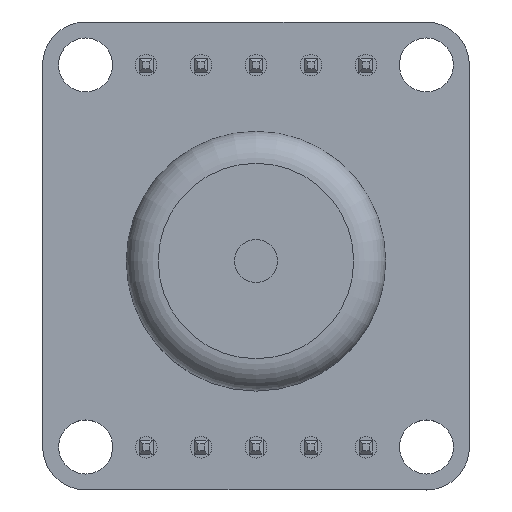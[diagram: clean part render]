
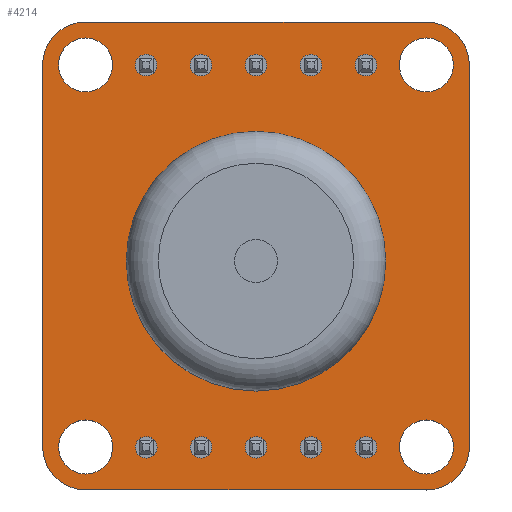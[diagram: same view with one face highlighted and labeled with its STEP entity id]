
A CAD part, top view. The second image highlights one B-rep face of the part: STEP entity #4214.
In plain terms, the highlighted planar face has unit normal (0, 0, 1).
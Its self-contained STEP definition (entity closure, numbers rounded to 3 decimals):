
#3889 = VERTEX_POINT('',#3890);
#3890 = CARTESIAN_POINT('',(153.952,-56.673,1.6));
#3896 = EDGE_CURVE('',#3889,#3897,#3899,.T.);
#3897 = VERTEX_POINT('',#3898);
#3898 = CARTESIAN_POINT('',(155.938,-58.659,1.6));
#3899 = CIRCLE('',#3900,1.986);
#3900 = AXIS2_PLACEMENT_3D('',#3901,#3902,#3903);
#3901 = CARTESIAN_POINT('',(153.952,-58.659,1.6));
#3902 = DIRECTION('',(0.,0.,-1.));
#3903 = DIRECTION('',(0.,1.,0.));
#3931 = VERTEX_POINT('',#3932);
#3932 = CARTESIAN_POINT('',(138.193,-56.673,1.6));
#3938 = EDGE_CURVE('',#3931,#3889,#3939,.T.);
#3939 = LINE('',#3940,#3941);
#3940 = CARTESIAN_POINT('',(138.193,-56.673,1.6));
#3941 = VECTOR('',#3942,1.);
#3942 = DIRECTION('',(1.,0.,0.));
#3960 = EDGE_CURVE('',#3897,#3961,#3963,.T.);
#3961 = VERTEX_POINT('',#3962);
#3962 = CARTESIAN_POINT('',(155.944,-76.324,1.6));
#3963 = LINE('',#3964,#3965);
#3964 = CARTESIAN_POINT('',(155.938,-58.659,1.6));
#3965 = VECTOR('',#3966,1.);
#3966 = DIRECTION('',(0.,-1.,0.));
#4214 = ADVANCED_FACE('',(#4215,#4261,#4272,#4283,#4294,#4305,#4316,
    #4327,#4338,#4349,#4360,#4371,#4382,#4393,#4404,#4415,#4426),#4437,
  .T.);
#4215 = FACE_BOUND('',#4216,.T.);
#4216 = EDGE_LOOP('',(#4217,#4218,#4219,#4228,#4236,#4245,#4253,#4260));
#4217 = ORIENTED_EDGE('',*,*,#3896,.F.);
#4218 = ORIENTED_EDGE('',*,*,#3938,.F.);
#4219 = ORIENTED_EDGE('',*,*,#4220,.F.);
#4220 = EDGE_CURVE('',#4221,#3931,#4223,.T.);
#4221 = VERTEX_POINT('',#4222);
#4222 = CARTESIAN_POINT('',(136.207,-58.659,1.6));
#4223 = CIRCLE('',#4224,1.986);
#4224 = AXIS2_PLACEMENT_3D('',#4225,#4226,#4227);
#4225 = CARTESIAN_POINT('',(138.193,-58.659,1.6));
#4226 = DIRECTION('',(0.,0.,-1.));
#4227 = DIRECTION('',(-1.,0.,-0.));
#4228 = ORIENTED_EDGE('',*,*,#4229,.F.);
#4229 = EDGE_CURVE('',#4230,#4221,#4232,.T.);
#4230 = VERTEX_POINT('',#4231);
#4231 = CARTESIAN_POINT('',(136.213,-76.324,1.6));
#4232 = LINE('',#4233,#4234);
#4233 = CARTESIAN_POINT('',(136.213,-76.324,1.6));
#4234 = VECTOR('',#4235,1.);
#4235 = DIRECTION('',(0.,1.,0.));
#4236 = ORIENTED_EDGE('',*,*,#4237,.F.);
#4237 = EDGE_CURVE('',#4238,#4230,#4240,.T.);
#4238 = VERTEX_POINT('',#4239);
#4239 = CARTESIAN_POINT('',(138.199,-78.31,1.6));
#4240 = CIRCLE('',#4241,1.986);
#4241 = AXIS2_PLACEMENT_3D('',#4242,#4243,#4244);
#4242 = CARTESIAN_POINT('',(138.199,-76.324,1.6));
#4243 = DIRECTION('',(0.,0.,-1.));
#4244 = DIRECTION('',(0.,-1.,-0.));
#4245 = ORIENTED_EDGE('',*,*,#4246,.F.);
#4246 = EDGE_CURVE('',#4247,#4238,#4249,.T.);
#4247 = VERTEX_POINT('',#4248);
#4248 = CARTESIAN_POINT('',(153.958,-78.31,1.6));
#4249 = LINE('',#4250,#4251);
#4250 = CARTESIAN_POINT('',(153.958,-78.31,1.6));
#4251 = VECTOR('',#4252,1.);
#4252 = DIRECTION('',(-1.,0.,0.));
#4253 = ORIENTED_EDGE('',*,*,#4254,.F.);
#4254 = EDGE_CURVE('',#3961,#4247,#4255,.T.);
#4255 = CIRCLE('',#4256,1.986);
#4256 = AXIS2_PLACEMENT_3D('',#4257,#4258,#4259);
#4257 = CARTESIAN_POINT('',(153.958,-76.324,1.6));
#4258 = DIRECTION('',(0.,0.,-1.));
#4259 = DIRECTION('',(1.,0.,0.));
#4260 = ORIENTED_EDGE('',*,*,#3960,.F.);
#4261 = FACE_BOUND('',#4262,.T.);
#4262 = EDGE_LOOP('',(#4263));
#4263 = ORIENTED_EDGE('',*,*,#4264,.T.);
#4264 = EDGE_CURVE('',#4265,#4265,#4267,.T.);
#4265 = VERTEX_POINT('',#4266);
#4266 = CARTESIAN_POINT('',(138.199,-77.574,1.6));
#4267 = CIRCLE('',#4268,1.25);
#4268 = AXIS2_PLACEMENT_3D('',#4269,#4270,#4271);
#4269 = CARTESIAN_POINT('',(138.199,-76.324,1.6));
#4270 = DIRECTION('',(-0.,0.,-1.));
#4271 = DIRECTION('',(-0.,-1.,0.));
#4272 = FACE_BOUND('',#4273,.T.);
#4273 = EDGE_LOOP('',(#4274));
#4274 = ORIENTED_EDGE('',*,*,#4275,.T.);
#4275 = EDGE_CURVE('',#4276,#4276,#4278,.T.);
#4276 = VERTEX_POINT('',#4277);
#4277 = CARTESIAN_POINT('',(141.,-76.839,1.6));
#4278 = CIRCLE('',#4279,0.5);
#4279 = AXIS2_PLACEMENT_3D('',#4280,#4281,#4282);
#4280 = CARTESIAN_POINT('',(141.,-76.339,1.6));
#4281 = DIRECTION('',(-0.,0.,-1.));
#4282 = DIRECTION('',(-0.,-1.,0.));
#4283 = FACE_BOUND('',#4284,.T.);
#4284 = EDGE_LOOP('',(#4285));
#4285 = ORIENTED_EDGE('',*,*,#4286,.T.);
#4286 = EDGE_CURVE('',#4287,#4287,#4289,.T.);
#4287 = VERTEX_POINT('',#4288);
#4288 = CARTESIAN_POINT('',(143.54,-76.839,1.6));
#4289 = CIRCLE('',#4290,0.5);
#4290 = AXIS2_PLACEMENT_3D('',#4291,#4292,#4293);
#4291 = CARTESIAN_POINT('',(143.54,-76.339,1.6));
#4292 = DIRECTION('',(-0.,0.,-1.));
#4293 = DIRECTION('',(-0.,-1.,0.));
#4294 = FACE_BOUND('',#4295,.T.);
#4295 = EDGE_LOOP('',(#4296));
#4296 = ORIENTED_EDGE('',*,*,#4297,.T.);
#4297 = EDGE_CURVE('',#4298,#4298,#4300,.T.);
#4298 = VERTEX_POINT('',#4299);
#4299 = CARTESIAN_POINT('',(146.076,-71.542,1.6));
#4300 = CIRCLE('',#4301,0.5);
#4301 = AXIS2_PLACEMENT_3D('',#4302,#4303,#4304);
#4302 = CARTESIAN_POINT('',(146.076,-71.042,1.6));
#4303 = DIRECTION('',(-0.,0.,-1.));
#4304 = DIRECTION('',(-0.,-1.,0.));
#4305 = FACE_BOUND('',#4306,.T.);
#4306 = EDGE_LOOP('',(#4307));
#4307 = ORIENTED_EDGE('',*,*,#4308,.T.);
#4308 = EDGE_CURVE('',#4309,#4309,#4311,.T.);
#4309 = VERTEX_POINT('',#4310);
#4310 = CARTESIAN_POINT('',(146.08,-76.839,1.6));
#4311 = CIRCLE('',#4312,0.5);
#4312 = AXIS2_PLACEMENT_3D('',#4313,#4314,#4315);
#4313 = CARTESIAN_POINT('',(146.08,-76.339,1.6));
#4314 = DIRECTION('',(-0.,0.,-1.));
#4315 = DIRECTION('',(-0.,-1.,0.));
#4316 = FACE_BOUND('',#4317,.T.);
#4317 = EDGE_LOOP('',(#4318));
#4318 = ORIENTED_EDGE('',*,*,#4319,.T.);
#4319 = EDGE_CURVE('',#4320,#4320,#4322,.T.);
#4320 = VERTEX_POINT('',#4321);
#4321 = CARTESIAN_POINT('',(148.62,-76.839,1.6));
#4322 = CIRCLE('',#4323,0.5);
#4323 = AXIS2_PLACEMENT_3D('',#4324,#4325,#4326);
#4324 = CARTESIAN_POINT('',(148.62,-76.339,1.6));
#4325 = DIRECTION('',(-0.,0.,-1.));
#4326 = DIRECTION('',(-0.,-1.,0.));
#4327 = FACE_BOUND('',#4328,.T.);
#4328 = EDGE_LOOP('',(#4329));
#4329 = ORIENTED_EDGE('',*,*,#4330,.T.);
#4330 = EDGE_CURVE('',#4331,#4331,#4333,.T.);
#4331 = VERTEX_POINT('',#4332);
#4332 = CARTESIAN_POINT('',(151.16,-76.839,1.6));
#4333 = CIRCLE('',#4334,0.5);
#4334 = AXIS2_PLACEMENT_3D('',#4335,#4336,#4337);
#4335 = CARTESIAN_POINT('',(151.16,-76.339,1.6));
#4336 = DIRECTION('',(-0.,0.,-1.));
#4337 = DIRECTION('',(-0.,-1.,0.));
#4338 = FACE_BOUND('',#4339,.T.);
#4339 = EDGE_LOOP('',(#4340));
#4340 = ORIENTED_EDGE('',*,*,#4341,.T.);
#4341 = EDGE_CURVE('',#4342,#4342,#4344,.T.);
#4342 = VERTEX_POINT('',#4343);
#4343 = CARTESIAN_POINT('',(153.958,-77.574,1.6));
#4344 = CIRCLE('',#4345,1.25);
#4345 = AXIS2_PLACEMENT_3D('',#4346,#4347,#4348);
#4346 = CARTESIAN_POINT('',(153.958,-76.324,1.6));
#4347 = DIRECTION('',(-0.,0.,-1.));
#4348 = DIRECTION('',(-0.,-1.,0.));
#4349 = FACE_BOUND('',#4350,.T.);
#4350 = EDGE_LOOP('',(#4351));
#4351 = ORIENTED_EDGE('',*,*,#4352,.T.);
#4352 = EDGE_CURVE('',#4353,#4353,#4355,.T.);
#4353 = VERTEX_POINT('',#4354);
#4354 = CARTESIAN_POINT('',(146.076,-64.442,1.6));
#4355 = CIRCLE('',#4356,0.5);
#4356 = AXIS2_PLACEMENT_3D('',#4357,#4358,#4359);
#4357 = CARTESIAN_POINT('',(146.076,-63.942,1.6));
#4358 = DIRECTION('',(-0.,0.,-1.));
#4359 = DIRECTION('',(-0.,-1.,0.));
#4360 = FACE_BOUND('',#4361,.T.);
#4361 = EDGE_LOOP('',(#4362));
#4362 = ORIENTED_EDGE('',*,*,#4363,.T.);
#4363 = EDGE_CURVE('',#4364,#4364,#4366,.T.);
#4364 = VERTEX_POINT('',#4365);
#4365 = CARTESIAN_POINT('',(138.193,-59.909,1.6));
#4366 = CIRCLE('',#4367,1.25);
#4367 = AXIS2_PLACEMENT_3D('',#4368,#4369,#4370);
#4368 = CARTESIAN_POINT('',(138.193,-58.659,1.6));
#4369 = DIRECTION('',(-0.,0.,-1.));
#4370 = DIRECTION('',(-0.,-1.,0.));
#4371 = FACE_BOUND('',#4372,.T.);
#4372 = EDGE_LOOP('',(#4373));
#4373 = ORIENTED_EDGE('',*,*,#4374,.T.);
#4374 = EDGE_CURVE('',#4375,#4375,#4377,.T.);
#4375 = VERTEX_POINT('',#4376);
#4376 = CARTESIAN_POINT('',(140.995,-59.169,1.6));
#4377 = CIRCLE('',#4378,0.5);
#4378 = AXIS2_PLACEMENT_3D('',#4379,#4380,#4381);
#4379 = CARTESIAN_POINT('',(140.995,-58.669,1.6));
#4380 = DIRECTION('',(-0.,0.,-1.));
#4381 = DIRECTION('',(-0.,-1.,0.));
#4382 = FACE_BOUND('',#4383,.T.);
#4383 = EDGE_LOOP('',(#4384));
#4384 = ORIENTED_EDGE('',*,*,#4385,.T.);
#4385 = EDGE_CURVE('',#4386,#4386,#4388,.T.);
#4386 = VERTEX_POINT('',#4387);
#4387 = CARTESIAN_POINT('',(143.535,-59.169,1.6));
#4388 = CIRCLE('',#4389,0.5);
#4389 = AXIS2_PLACEMENT_3D('',#4390,#4391,#4392);
#4390 = CARTESIAN_POINT('',(143.535,-58.669,1.6));
#4391 = DIRECTION('',(-0.,0.,-1.));
#4392 = DIRECTION('',(-0.,-1.,0.));
#4393 = FACE_BOUND('',#4394,.T.);
#4394 = EDGE_LOOP('',(#4395));
#4395 = ORIENTED_EDGE('',*,*,#4396,.T.);
#4396 = EDGE_CURVE('',#4397,#4397,#4399,.T.);
#4397 = VERTEX_POINT('',#4398);
#4398 = CARTESIAN_POINT('',(146.075,-59.169,1.6));
#4399 = CIRCLE('',#4400,0.5);
#4400 = AXIS2_PLACEMENT_3D('',#4401,#4402,#4403);
#4401 = CARTESIAN_POINT('',(146.075,-58.669,1.6));
#4402 = DIRECTION('',(-0.,0.,-1.));
#4403 = DIRECTION('',(-0.,-1.,0.));
#4404 = FACE_BOUND('',#4405,.T.);
#4405 = EDGE_LOOP('',(#4406));
#4406 = ORIENTED_EDGE('',*,*,#4407,.T.);
#4407 = EDGE_CURVE('',#4408,#4408,#4410,.T.);
#4408 = VERTEX_POINT('',#4409);
#4409 = CARTESIAN_POINT('',(148.615,-59.169,1.6));
#4410 = CIRCLE('',#4411,0.5);
#4411 = AXIS2_PLACEMENT_3D('',#4412,#4413,#4414);
#4412 = CARTESIAN_POINT('',(148.615,-58.669,1.6));
#4413 = DIRECTION('',(-0.,0.,-1.));
#4414 = DIRECTION('',(-0.,-1.,0.));
#4415 = FACE_BOUND('',#4416,.T.);
#4416 = EDGE_LOOP('',(#4417));
#4417 = ORIENTED_EDGE('',*,*,#4418,.T.);
#4418 = EDGE_CURVE('',#4419,#4419,#4421,.T.);
#4419 = VERTEX_POINT('',#4420);
#4420 = CARTESIAN_POINT('',(151.155,-59.169,1.6));
#4421 = CIRCLE('',#4422,0.5);
#4422 = AXIS2_PLACEMENT_3D('',#4423,#4424,#4425);
#4423 = CARTESIAN_POINT('',(151.155,-58.669,1.6));
#4424 = DIRECTION('',(-0.,0.,-1.));
#4425 = DIRECTION('',(-0.,-1.,0.));
#4426 = FACE_BOUND('',#4427,.T.);
#4427 = EDGE_LOOP('',(#4428));
#4428 = ORIENTED_EDGE('',*,*,#4429,.T.);
#4429 = EDGE_CURVE('',#4430,#4430,#4432,.T.);
#4430 = VERTEX_POINT('',#4431);
#4431 = CARTESIAN_POINT('',(153.952,-59.909,1.6));
#4432 = CIRCLE('',#4433,1.25);
#4433 = AXIS2_PLACEMENT_3D('',#4434,#4435,#4436);
#4434 = CARTESIAN_POINT('',(153.952,-58.659,1.6));
#4435 = DIRECTION('',(-0.,0.,-1.));
#4436 = DIRECTION('',(-0.,-1.,0.));
#4437 = PLANE('',#4438);
#4438 = AXIS2_PLACEMENT_3D('',#4439,#4440,#4441);
#4439 = CARTESIAN_POINT('',(0.,0.,1.6));
#4440 = DIRECTION('',(0.,0.,1.));
#4441 = DIRECTION('',(1.,0.,-0.));
